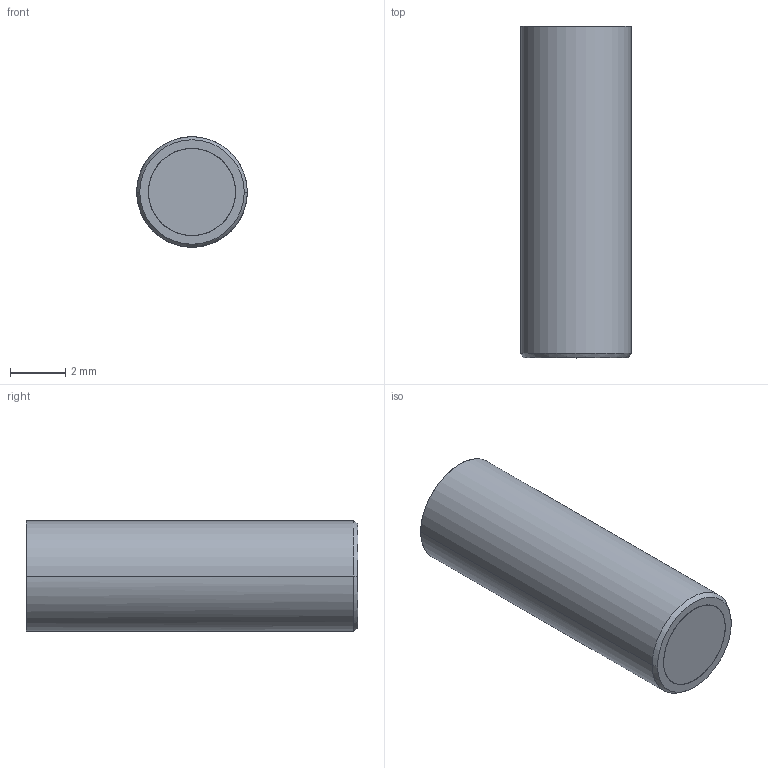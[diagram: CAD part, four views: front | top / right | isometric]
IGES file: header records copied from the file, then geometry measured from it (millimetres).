
Start section: START RECORD GO HERE.
Global section: file name: fa042204-21.igs; native system: DASSAULT SYSTEMES CATIA V5 R20 - www.3ds.com; preprocessor: CATIA Version 5 Release 20 ; author: Utente; organization: NB04-ASUS; date: 20201108.084028; units: millimetre
Bounding box: 4 x 12 x 4 mm (x, y, z)
Surface area: 462 mm2 (no closed solid volume)
Topology: 0 solids, 0 shells, 255 faces, 1202 edges, 1200 vertices
Faces by surface type: bspline 123, plane 78, revolution 54
